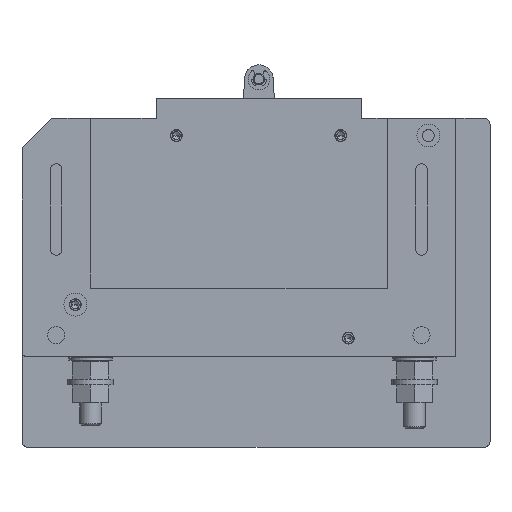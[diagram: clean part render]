
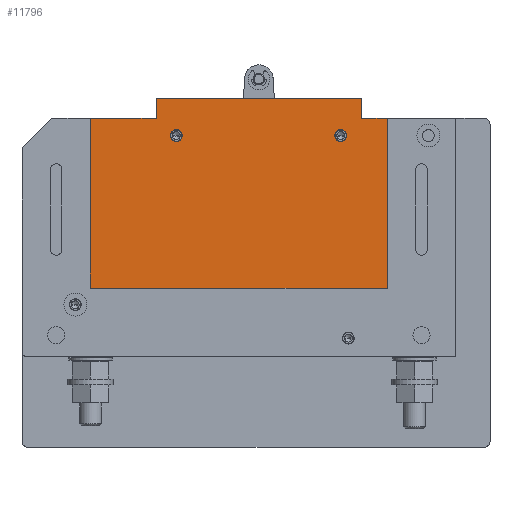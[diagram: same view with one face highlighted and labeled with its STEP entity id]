
A CAD part, top view. The second image highlights one B-rep face of the part: STEP entity #11796.
In plain terms, the highlighted planar face has unit normal (0, 0, 1).
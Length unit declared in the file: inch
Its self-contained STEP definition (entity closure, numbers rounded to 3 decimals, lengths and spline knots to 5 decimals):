
#1134=DIRECTION('',(0.,1.,0.));
#1135=VECTOR('',#1134,1.86);
#1136=CARTESIAN_POINT('',(-1.844,-1.514,1.026));
#1137=LINE('',#1136,#1135);
#1138=DIRECTION('',(-1.,0.,0.));
#1139=VECTOR('',#1138,0.719);
#1140=CARTESIAN_POINT('',(-1.125,0.346,1.026));
#1141=LINE('',#1140,#1139);
#1142=DIRECTION('',(0.,-1.,0.));
#1143=VECTOR('',#1142,0.22);
#1144=CARTESIAN_POINT('',(-1.125,0.566,1.026));
#1145=LINE('',#1144,#1143);
#1146=DIRECTION('',(-1.,0.,0.));
#1147=VECTOR('',#1146,2.25);
#1148=CARTESIAN_POINT('',(1.125,0.566,1.026));
#1149=LINE('',#1148,#1147);
#1150=DIRECTION('',(0.,1.,0.));
#1151=VECTOR('',#1150,0.22);
#1152=CARTESIAN_POINT('',(1.125,0.346,1.026));
#1153=LINE('',#1152,#1151);
#1154=DIRECTION('',(-1.,0.,0.));
#1155=VECTOR('',#1154,0.281);
#1156=CARTESIAN_POINT('',(1.406,0.346,1.026));
#1157=LINE('',#1156,#1155);
#1158=DIRECTION('',(0.,-1.,0.));
#1159=VECTOR('',#1158,1.86);
#1160=CARTESIAN_POINT('',(1.406,0.346,1.026));
#1161=LINE('',#1160,#1159);
#1162=DIRECTION('',(-1.,0.,0.));
#1163=VECTOR('',#1162,3.25);
#1164=CARTESIAN_POINT('',(1.406,-1.514,1.026));
#1165=LINE('',#1164,#1163);
#1166=CARTESIAN_POINT('',(-0.905,0.156,1.026));
#1167=DIRECTION('',(0.,0.,-1.));
#1168=DIRECTION('',(-1.,0.,0.));
#1169=AXIS2_PLACEMENT_3D('',#1166,#1167,#1168);
#1171=CARTESIAN_POINT('',(-0.905,0.156,1.026));
#1172=DIRECTION('',(0.,0.,-1.));
#1173=DIRECTION('',(1.,0.,0.));
#1174=AXIS2_PLACEMENT_3D('',#1171,#1172,#1173);
#1176=CARTESIAN_POINT('',(0.897,0.156,1.026));
#1177=DIRECTION('',(0.,0.,-1.));
#1178=DIRECTION('',(-1.,0.,0.));
#1179=AXIS2_PLACEMENT_3D('',#1176,#1177,#1178);
#1181=CARTESIAN_POINT('',(0.897,0.156,1.026));
#1182=DIRECTION('',(0.,0.,-1.));
#1183=DIRECTION('',(1.,0.,0.));
#1184=AXIS2_PLACEMENT_3D('',#1181,#1182,#1183);
#9679=CARTESIAN_POINT('',(1.125,0.566,1.026));
#9680=CARTESIAN_POINT('',(-1.125,0.566,1.026));
#9681=VERTEX_POINT('',#9679);
#9682=VERTEX_POINT('',#9680);
#9683=CARTESIAN_POINT('',(1.125,0.346,1.026));
#9684=VERTEX_POINT('',#9683);
#9685=CARTESIAN_POINT('',(-1.125,0.346,1.026));
#9686=VERTEX_POINT('',#9685);
#9707=CARTESIAN_POINT('',(-0.97,0.156,1.026));
#9708=CARTESIAN_POINT('',(-0.84,0.156,1.026));
#9709=VERTEX_POINT('',#9707);
#9710=VERTEX_POINT('',#9708);
#9711=CARTESIAN_POINT('',(0.832,0.156,1.026));
#9712=CARTESIAN_POINT('',(0.962,0.156,1.026));
#9713=VERTEX_POINT('',#9711);
#9714=VERTEX_POINT('',#9712);
#9725=CARTESIAN_POINT('',(-1.844,-1.514,1.026));
#9726=CARTESIAN_POINT('',(-1.844,0.346,1.026));
#9727=VERTEX_POINT('',#9725);
#9728=VERTEX_POINT('',#9726);
#9729=CARTESIAN_POINT('',(1.406,-1.514,1.026));
#9730=VERTEX_POINT('',#9729);
#9731=CARTESIAN_POINT('',(1.406,0.346,1.026));
#9732=VERTEX_POINT('',#9731);
#11764=CARTESIAN_POINT('',(0.,0.,1.026));
#11765=DIRECTION('',(0.,0.,1.));
#11766=DIRECTION('',(1.,0.,0.));
#11767=AXIS2_PLACEMENT_3D('',#11764,#11765,#11766);
#11768=PLANE('',#11767);
#11770=ORIENTED_EDGE('',*,*,#11769,.T.);
#11771=ORIENTED_EDGE('',*,*,#11021,.F.);
#11773=ORIENTED_EDGE('',*,*,#11772,.F.);
#11775=ORIENTED_EDGE('',*,*,#11774,.F.);
#11777=ORIENTED_EDGE('',*,*,#11776,.F.);
#11778=ORIENTED_EDGE('',*,*,#11475,.F.);
#11779=ORIENTED_EDGE('',*,*,#11755,.T.);
#11781=ORIENTED_EDGE('',*,*,#11780,.T.);
#11782=EDGE_LOOP('',(#11770,#11771,#11773,#11775,#11777,#11778,#11779,#11781));
#11783=FACE_OUTER_BOUND('',#11782,.F.);
#11785=ORIENTED_EDGE('',*,*,#11784,.F.);
#11787=ORIENTED_EDGE('',*,*,#11786,.F.);
#11788=EDGE_LOOP('',(#11785,#11787));
#11789=FACE_BOUND('',#11788,.F.);
#11791=ORIENTED_EDGE('',*,*,#11790,.F.);
#11793=ORIENTED_EDGE('',*,*,#11792,.F.);
#11794=EDGE_LOOP('',(#11791,#11793));
#11795=FACE_BOUND('',#11794,.F.);
#1170=CIRCLE('',#1169,0.065);
#1175=CIRCLE('',#1174,0.065);
#1180=CIRCLE('',#1179,0.065);
#1185=CIRCLE('',#1184,0.065);
#11021=EDGE_CURVE('',#9686,#9728,#1141,.T.);
#11475=EDGE_CURVE('',#9732,#9684,#1157,.T.);
#11755=EDGE_CURVE('',#9732,#9730,#1161,.T.);
#11769=EDGE_CURVE('',#9727,#9728,#1137,.T.);
#11772=EDGE_CURVE('',#9682,#9686,#1145,.T.);
#11774=EDGE_CURVE('',#9681,#9682,#1149,.T.);
#11776=EDGE_CURVE('',#9684,#9681,#1153,.T.);
#11780=EDGE_CURVE('',#9730,#9727,#1165,.T.);
#11784=EDGE_CURVE('',#9709,#9710,#1170,.T.);
#11786=EDGE_CURVE('',#9710,#9709,#1175,.T.);
#11790=EDGE_CURVE('',#9713,#9714,#1180,.T.);
#11792=EDGE_CURVE('',#9714,#9713,#1185,.T.);
#11796=ADVANCED_FACE('',(#11783,#11789,#11795),#11768,.T.);
